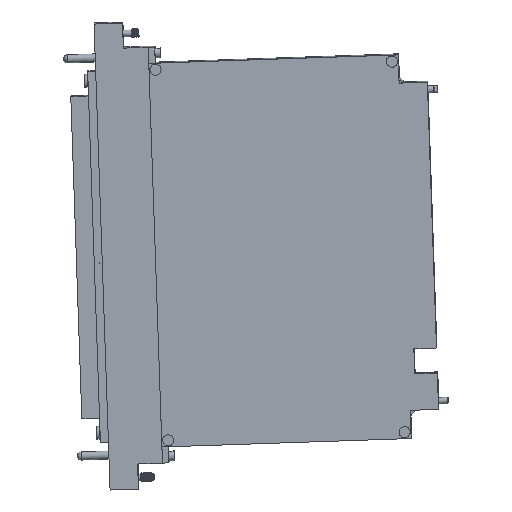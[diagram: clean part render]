
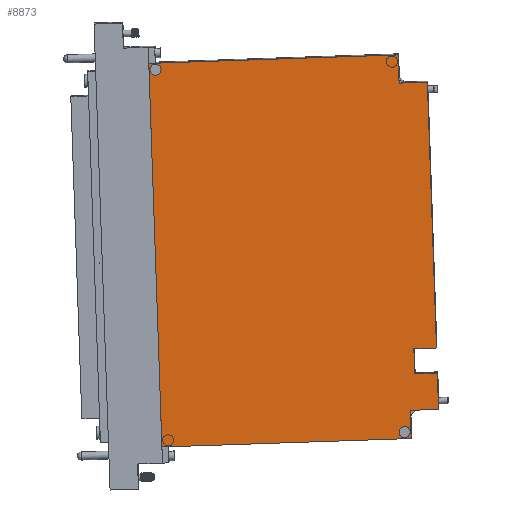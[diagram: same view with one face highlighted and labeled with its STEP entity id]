
A CAD part, front view. The second image highlights one B-rep face of the part: STEP entity #8873.
In plain terms, the highlighted planar face has unit normal (-0.008, -1, -0.021).
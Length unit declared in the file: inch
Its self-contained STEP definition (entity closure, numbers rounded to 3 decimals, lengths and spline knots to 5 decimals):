
#8770=CARTESIAN_POINT('',(3.01325,-0.42113,0.08983));
#8771=DIRECTION('',(0.008,1.,0.021));
#8772=DIRECTION('',(-0.999,0.009,-0.034));
#8773=AXIS2_PLACEMENT_3D('',#8770,#8771,#8772);
#8774=PLANE('',#8773);
#8775=CARTESIAN_POINT('',(4.88399,-0.40421,-1.42997));
#8776=VERTEX_POINT('',#8775);
#8777=CARTESIAN_POINT('',(5.23377,-0.40739,-1.41805));
#8778=VERTEX_POINT('',#8777);
#8779=CARTESIAN_POINT('',(4.88399,-0.40421,-1.42997));
#8780=DIRECTION('',(0.999,-0.009,0.034));
#8781=VECTOR('',#8780,0.35);
#8782=LINE('',#8779,#8781);
#8783=EDGE_CURVE('',#8776,#8778,#8782,.T.);
#8784=ORIENTED_EDGE('',*,*,#8783,.T.);
#8785=CARTESIAN_POINT('',(5.09278,-0.49438,2.69508));
#8786=VERTEX_POINT('',#8785);
#8787=CARTESIAN_POINT('',(5.23377,-0.40739,-1.41805));
#8788=DIRECTION('',(-0.034,-0.021,0.999));
#8789=VECTOR('',#8788,4.11646);
#8790=LINE('',#8787,#8789);
#8791=EDGE_CURVE('',#8778,#8786,#8790,.T.);
#8792=ORIENTED_EDGE('',*,*,#8791,.T.);
#8793=CARTESIAN_POINT('',(4.65555,-0.4904,2.68018));
#8794=VERTEX_POINT('',#8793);
#8795=CARTESIAN_POINT('',(5.09278,-0.49438,2.69508));
#8796=DIRECTION('',(-0.999,0.009,-0.034));
#8797=VECTOR('',#8796,0.4375);
#8798=LINE('',#8795,#8797);
#8799=EDGE_CURVE('',#8786,#8794,#8798,.T.);
#8800=ORIENTED_EDGE('',*,*,#8799,.T.);
#8801=CARTESIAN_POINT('',(4.6406,-0.49963,3.11636));
#8802=VERTEX_POINT('',#8801);
#8803=CARTESIAN_POINT('',(4.65555,-0.4904,2.68018));
#8804=DIRECTION('',(-0.034,-0.021,0.999));
#8805=VECTOR('',#8804,0.43654);
#8806=LINE('',#8803,#8805);
#8807=EDGE_CURVE('',#8794,#8802,#8806,.T.);
#8808=ORIENTED_EDGE('',*,*,#8807,.T.);
#8809=CARTESIAN_POINT('',(0.7825,-0.46453,2.98485));
#8810=VERTEX_POINT('',#8809);
#8811=CARTESIAN_POINT('',(4.6406,-0.49963,3.11636));
#8812=DIRECTION('',(-0.999,0.009,-0.034));
#8813=VECTOR('',#8812,3.8605);
#8814=LINE('',#8811,#8813);
#8815=EDGE_CURVE('',#8802,#8810,#8814,.T.);
#8816=ORIENTED_EDGE('',*,*,#8815,.T.);
#8817=CARTESIAN_POINT('',(0.98595,-0.339,-2.95034));
#8818=VERTEX_POINT('',#8817);
#8819=CARTESIAN_POINT('',(0.7825,-0.46453,2.98485));
#8820=DIRECTION('',(0.034,0.021,-0.999));
#8821=VECTOR('',#8820,5.94);
#8822=LINE('',#8819,#8821);
#8823=EDGE_CURVE('',#8810,#8818,#8822,.T.);
#8824=ORIENTED_EDGE('',*,*,#8823,.T.);
#8825=CARTESIAN_POINT('',(4.84405,-0.3741,-2.81883));
#8826=VERTEX_POINT('',#8825);
#8827=CARTESIAN_POINT('',(0.98595,-0.339,-2.95034));
#8828=DIRECTION('',(0.999,-0.009,0.034));
#8829=VECTOR('',#8828,3.8605);
#8830=LINE('',#8827,#8829);
#8831=EDGE_CURVE('',#8818,#8826,#8830,.T.);
#8832=ORIENTED_EDGE('',*,*,#8831,.T.);
#8833=CARTESIAN_POINT('',(4.8291,-0.38332,-2.38265));
#8834=VERTEX_POINT('',#8833);
#8835=CARTESIAN_POINT('',(4.84405,-0.3741,-2.81883));
#8836=DIRECTION('',(-0.034,-0.021,0.999));
#8837=VECTOR('',#8836,0.43654);
#8838=LINE('',#8835,#8837);
#8839=EDGE_CURVE('',#8826,#8834,#8838,.T.);
#8840=ORIENTED_EDGE('',*,*,#8839,.T.);
#8841=CARTESIAN_POINT('',(5.26633,-0.3873,-2.36774));
#8842=VERTEX_POINT('',#8841);
#8843=CARTESIAN_POINT('',(4.8291,-0.38332,-2.38265));
#8844=DIRECTION('',(0.999,-0.009,0.034));
#8845=VECTOR('',#8844,0.4375);
#8846=LINE('',#8843,#8845);
#8847=EDGE_CURVE('',#8834,#8842,#8846,.T.);
#8848=ORIENTED_EDGE('',*,*,#8847,.T.);
#8849=CARTESIAN_POINT('',(5.24703,-0.39921,-1.80474));
#8850=VERTEX_POINT('',#8849);
#8851=CARTESIAN_POINT('',(5.26633,-0.3873,-2.36774));
#8852=DIRECTION('',(-0.034,-0.021,0.999));
#8853=VECTOR('',#8852,0.56346);
#8854=LINE('',#8851,#8853);
#8855=EDGE_CURVE('',#8842,#8850,#8854,.T.);
#8856=ORIENTED_EDGE('',*,*,#8855,.T.);
#8857=CARTESIAN_POINT('',(4.89725,-0.39603,-1.81666));
#8858=VERTEX_POINT('',#8857);
#8859=CARTESIAN_POINT('',(5.24703,-0.39921,-1.80474));
#8860=DIRECTION('',(-0.999,0.009,-0.034));
#8861=VECTOR('',#8860,0.35);
#8862=LINE('',#8859,#8861);
#8863=EDGE_CURVE('',#8850,#8858,#8862,.T.);
#8864=ORIENTED_EDGE('',*,*,#8863,.T.);
#8865=CARTESIAN_POINT('',(4.89725,-0.39603,-1.81666));
#8866=DIRECTION('',(-0.034,-0.021,0.999));
#8867=VECTOR('',#8866,0.387);
#8868=LINE('',#8865,#8867);
#8869=EDGE_CURVE('',#8858,#8776,#8868,.T.);
#8870=ORIENTED_EDGE('',*,*,#8869,.T.);
#8871=EDGE_LOOP('',(#8784,#8792,#8800,#8808,#8816,#8824,#8832,#8840,#8848,#8856,#8864,#8870));
#8872=FACE_OUTER_BOUND('',#8871,.T.);
#8873=ADVANCED_FACE('',(#8872),#8774,.F.);
